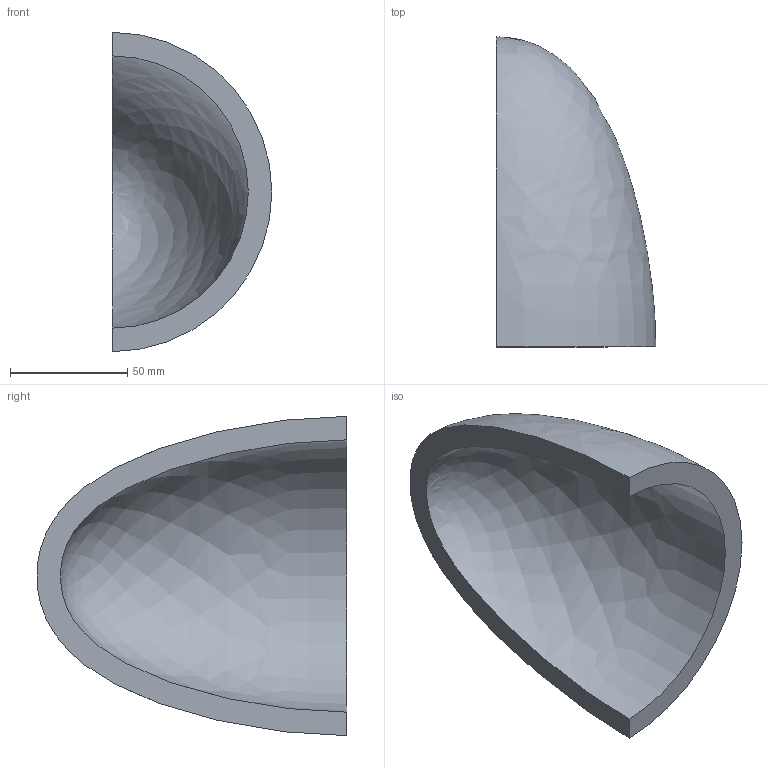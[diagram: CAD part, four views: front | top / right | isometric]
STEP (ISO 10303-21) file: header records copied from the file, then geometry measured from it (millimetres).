
FILE_DESCRIPTION(('CATIA V5 STEP Exchange'),'2;1');
FILE_NAME('C:\_Andres\UNIVERSIDAD\IQS\ASIGNATURAS\DAO\EXF\EXF-16172c\2inicio\Sarasa_Prat_Ej10_v32.stp','2017-03-05T22:31:16+00:00',('none'),('none'),'CATIA Version 5-6 Release 2014 SP1 HF18','CATIA V5 STEP AP203','none');
FILE_SCHEMA(('CONFIG_CONTROL_DESIGN'));
Length unit declared in the file: millimetre
Products named in the file (1): Sarasa_Prat_Ej10_v32
Bounding box: 68 x 132 x 136 mm (x, y, z)
Volume: 215639.3 mm3; surface area: 48295.1 mm2
Topology: 1 solids, 1 shells, 4 faces, 10 edges, 6 vertices
Faces by surface type: revolution 2, plane 2
Entity records: 254 total; most frequent: CARTESIAN_POINT 132, ORIENTED_EDGE 16, DIRECTION 10, EDGE_CURVE 8, B_SPLINE_CURVE_WITH_KNOTS 6, VERTEX_POINT 6, AXIS2_PLACEMENT_3D 5, ADVANCED_FACE 4
